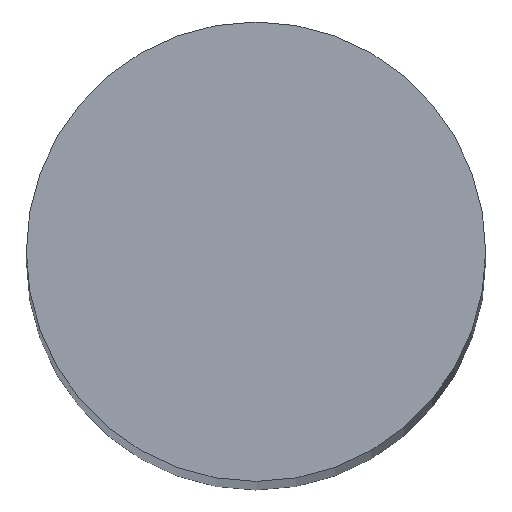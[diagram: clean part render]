
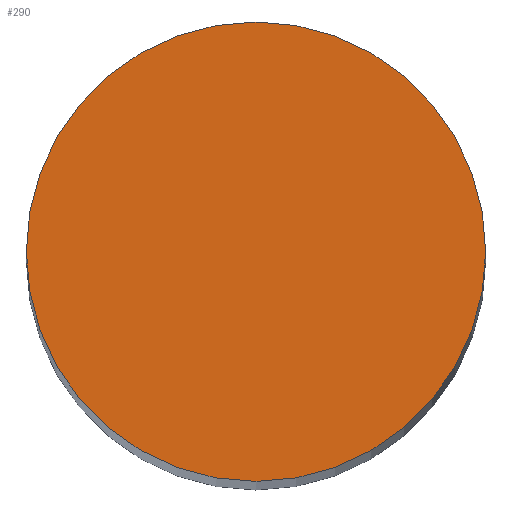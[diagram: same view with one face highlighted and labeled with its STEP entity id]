
A CAD part, top view. The second image highlights one B-rep face of the part: STEP entity #290.
In plain terms, the highlighted planar face has unit normal (0, 0, 1).
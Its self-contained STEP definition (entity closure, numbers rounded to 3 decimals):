
#20 = DIRECTION ( 'NONE',  ( 0., 0., 1. ) ) ;
#44 = DIRECTION ( 'NONE',  ( 1., 0., 0. ) ) ;
#69 = DIRECTION ( 'NONE',  ( 1., 0., 0. ) ) ;
#117 = PLANE ( 'NONE',  #136 ) ;
#136 = AXIS2_PLACEMENT_3D ( 'NONE', #228, #252, #44 ) ;
#146 = CARTESIAN_POINT ( 'NONE',  ( 7., 0., 150. ) ) ;
#158 = AXIS2_PLACEMENT_3D ( 'NONE', #177, #20, #69 ) ;
#177 = CARTESIAN_POINT ( 'NONE',  ( 0., 0., 150. ) ) ;
#228 = CARTESIAN_POINT ( 'NONE',  ( 0., 0., 150. ) ) ;
#232 = FACE_OUTER_BOUND ( 'NONE', #339, .T. ) ;
#252 = DIRECTION ( 'NONE',  ( 0., 0., 1. ) ) ;
#290 = ADVANCED_FACE ( 'NONE', ( #232 ), #117, .T. ) ;
#304 = VERTEX_POINT ( 'NONE', #146 ) ;
#305 = ORIENTED_EDGE ( 'NONE', *, *, #329, .T. ) ;
#310 = CIRCLE ( 'NONE', #158, 7. ) ;
#329 = EDGE_CURVE ( 'NONE', #304, #304, #310, .T. ) ;
#339 = EDGE_LOOP ( 'NONE', ( #305 ) ) ;
